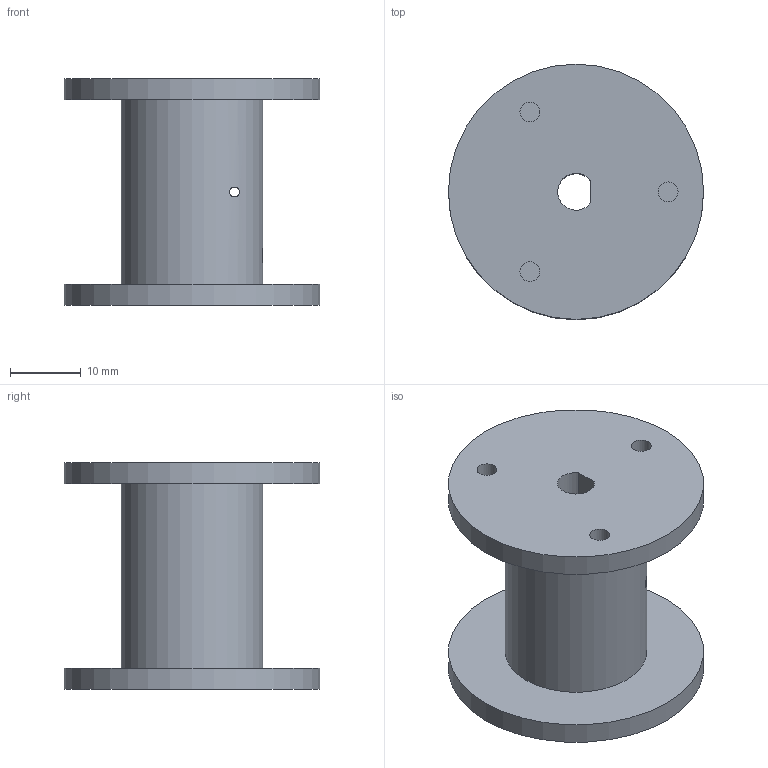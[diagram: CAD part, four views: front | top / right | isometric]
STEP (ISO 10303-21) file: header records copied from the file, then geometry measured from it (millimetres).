
FILE_DESCRIPTION(('Open CASCADE Model'),'2;1');
FILE_NAME('Open CASCADE Shape Model','2026-10-05T13:24:20',('Author'),( 'Open CASCADE'),'Open CASCADE STEP processor 7.8','Open CASCADE 7.8' ,'Unknown');
FILE_SCHEMA(('AUTOMOTIVE_DESIGN { 1 0 10303 214 1 1 1 1 }'));
Length unit declared in the file: millimetre
Products named in the file (1): Open CASCADE STEP translator 7.8 13
Bounding box: 36 x 36 x 32 mm (x, y, z)
Volume: 13503.5 mm3; surface area: 6429.2 mm2
Topology: 1 solids, 1 shells, 17 faces, 33 edges, 22 vertices
Faces by surface type: cylinder 9, plane 8
Full cylindrical faces by diameter (mm): 1.4 x1, 2.8 x4, 20 x1, 36 x2
Entity records: 1493 total; most frequent: CARTESIAN_POINT 790, DIRECTION 126, ORIENTED_EDGE 66, PCURVE 66, DEFINITIONAL_REPRESENTATION 66, LINE 48, VECTOR 48, AXIS2_PLACEMENT_3D 33
